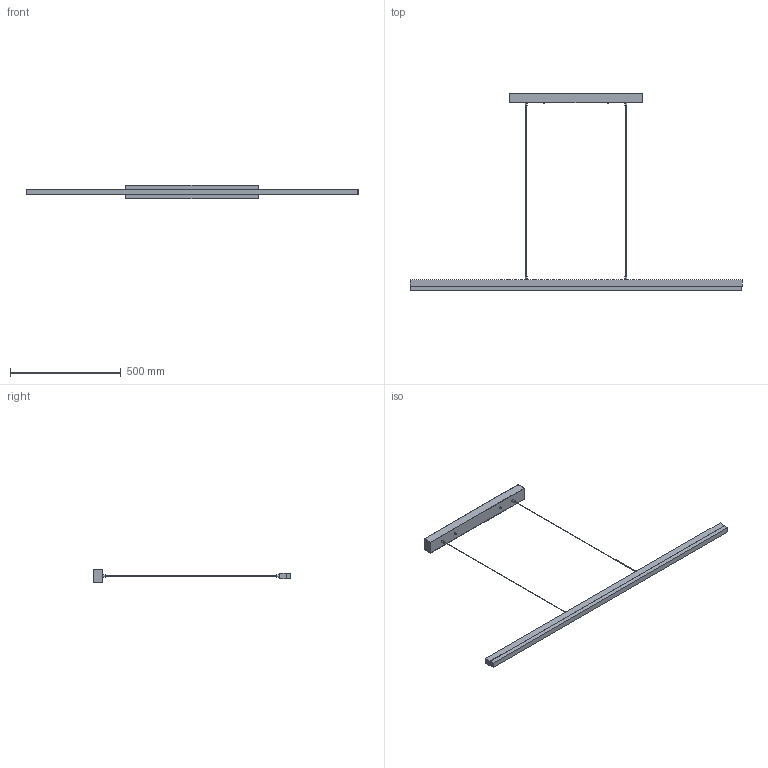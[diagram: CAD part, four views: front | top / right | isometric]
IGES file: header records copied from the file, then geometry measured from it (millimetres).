
Start section: SolidWorks IGES file using analytic representation for surfaces
Global section: file name: F:\燠隴矨\3D\2025-5\Ecliptic Beam Pendant Lamp-L150cm.IGS,15; native system: HSolidWorks 2022; preprocessor: SolidWorks 2022; author: MyPC; date: 250505.194605; units: millimetre
Bounding box: 1500 x 892.04 x 60 mm (x, y, z)
Surface area: 429141.4 mm2 (no closed solid volume)
Topology: 0 solids, 0 shells, 98 faces, 1468 edges, 1468 vertices
Faces by surface type: bspline 62, revolution 36
